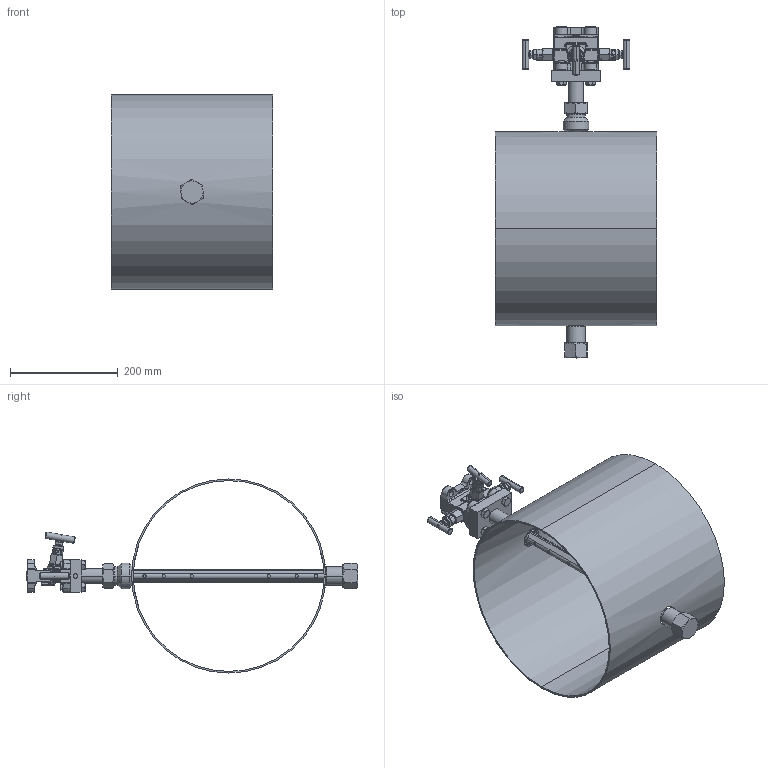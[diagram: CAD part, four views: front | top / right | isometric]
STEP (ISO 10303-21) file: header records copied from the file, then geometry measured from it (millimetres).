
FILE_DESCRIPTION (( 'STEP AP203' ), '1' );
FILE_NAME ('FB-SDF-M-22-ID-WS+H-SC-FP-DE-H-001-00.STEP', '2012-07-17T13:11:50', ( 'M. Kriebitz' ), ( '' ), 'SwSTEP 2.0', 'SolidWorks 2010', '' );
FILE_SCHEMA (( 'CONFIG_CONTROL_DESIGN' ));
Length unit declared in the file: millimetre
Products named in the file (22): Sondenprofilschale_22_2_L2=452mm; FZ-FT-SDF22-001-01; FZ-GLG-22-PN40-003-00; FZ-GLG-22-PN40-001-01; Schweißnahtdarstellung_22; Verschlussplaettchen_22; 6kt-Mutter_28; FZ-FLP-22_32-PN100-H-001-00_nach dem Schweißen; FB-SDF-M-22-ID-WS+H-SC-FP-DE-H-001-00; N542_46_491_01; Sondenprofilschale_22_1_L1=372mm; SDF-22-Profil_ID=349,0mm; WS=3,0mm; L1=372,0mm; L2=452,0mm; mit GL; Rund; Zwischenblech_22; Rohrleitung Flanschsonde_Rund; Halsrohr_Halsrohr Ø28 x 2 x 90; Schweißnahtdarstellung Halsrohr; FZ-MST-28L-PN40-001-01; FB-MST-28L-PN40-001-00; FZ-GLG-22-PN40-002-01; Schneidring_28; hex finished bolt_ai_PreviewCfg
Assembly tree (24 placements, depth 3):
  FB-SDF-M-22-ID-WS+H-SC-FP-DE-H-001-00
    FZ-FLP-22_32-PN100-H-001-00_nach dem Schweißen
    FZ-FT-SDF22-001-01
    hex finished bolt_ai_PreviewCfg  x4
    Halsrohr_Halsrohr Ø28 x 2 x 90
    Rohrleitung Flanschsonde_Rund
    FB-MST-28L-PN40-001-00
      6kt-Mutter_28
      FZ-MST-28L-PN40-001-01
      Schneidring_28
    SDF-22-Profil_ID=349,0mm; WS=3,0mm; L1=372,0mm; L2=452,0mm; mit GL; Rund
      Sondenprofilschale_22_1_L1=372mm
      Schweißnahtdarstellung_22
      Schweißnahtdarstellung_22
      Zwischenblech_22
      Sondenprofilschale_22_2_L2=452mm
      Verschlussplaettchen_22
    FZ-GLG-22-PN40-003-00
      FZ-GLG-22-PN40-002-01
      FZ-GLG-22-PN40-001-01
    N542_46_491_01
    Schweißnahtdarstellung Halsrohr
Bounding box: 300 x 617.4 x 361 mm (x, y, z)
Volume: 1568620.9 mm3; surface area: 907470.9 mm2
Topology: 42 solids, 42 shells, 1787 faces, 4480 edges, 2783 vertices
Faces by surface type: plane 513, cylinder 488, bspline 431, cone 309, torus 44, sphere 2
Entity records: 94741 total; most frequent: CARTESIAN_POINT 54777, ORIENTED_EDGE 8472, DIRECTION 6602, EDGE_CURVE 4236, VERTEX_POINT 2681, AXIS2_PLACEMENT_3D 2432, EDGE_LOOP 1871, VECTOR 1738
